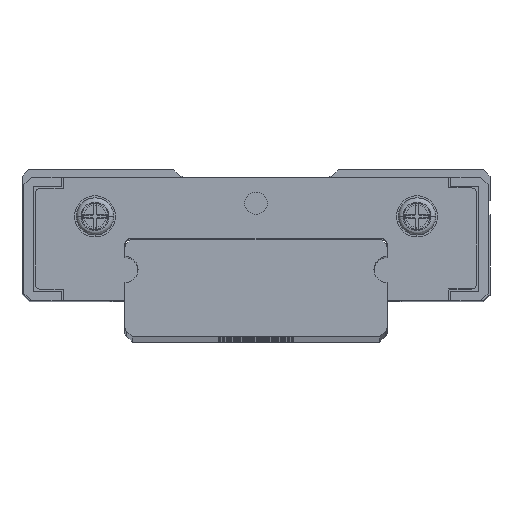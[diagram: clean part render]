
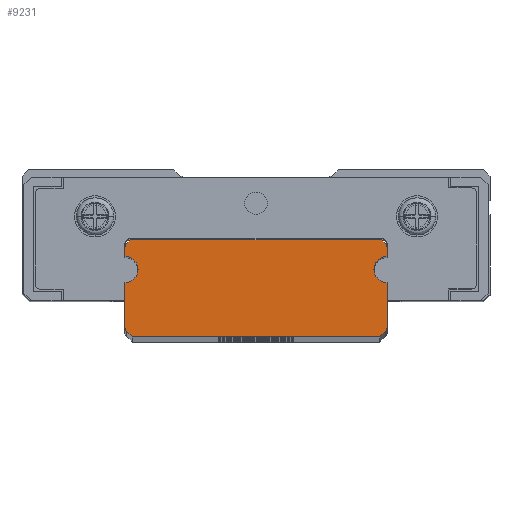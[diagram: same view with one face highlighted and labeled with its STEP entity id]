
A CAD part, top view. The second image highlights one B-rep face of the part: STEP entity #9231.
In plain terms, the highlighted planar face has unit normal (0, 0, 1).
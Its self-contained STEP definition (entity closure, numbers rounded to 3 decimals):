
#7615=CARTESIAN_POINT('',(7.,1.7,164.));
#7616=VERTEX_POINT('',#7615);
#7617=CARTESIAN_POINT('',(6.3,1.,164.));
#7618=VERTEX_POINT('',#7617);
#7619=CARTESIAN_POINT('',(7.,1.,164.));
#7620=DIRECTION('',(0.,1.,0.));
#7621=DIRECTION('',(0.,0.,1.));
#7622=AXIS2_PLACEMENT_3D('',#7619,#7621,#7620);
#7623=CIRCLE('',#7622,0.7);
#7624=EDGE_CURVE('',#7616,#7618,#7623,.T.);
#8651=CARTESIAN_POINT('',(6.7,2.6,164.));
#8652=VERTEX_POINT('',#8651);
#8659=CARTESIAN_POINT('',(6.912,2.388,164.));
#8660=VERTEX_POINT('',#8659);
#8661=CARTESIAN_POINT('',(6.7,2.6,164.));
#8662=DIRECTION('',(0.707,-0.707,0.));
#8663=VECTOR('',#8662,0.3);
#8664=LINE('',#8661,#8663);
#8665=EDGE_CURVE('',#8652,#8660,#8664,.T.);
#8689=CARTESIAN_POINT('',(-6.7,2.6,164.));
#8690=VERTEX_POINT('',#8689);
#8697=CARTESIAN_POINT('',(-6.7,2.6,164.));
#8698=DIRECTION('',(1.,0.,0.));
#8699=VECTOR('',#8698,13.4);
#8700=LINE('',#8697,#8699);
#8701=EDGE_CURVE('',#8690,#8652,#8700,.T.);
#8756=CARTESIAN_POINT('',(-6.912,2.388,164.));
#8757=VERTEX_POINT('',#8756);
#8764=CARTESIAN_POINT('',(-6.912,2.388,164.));
#8765=DIRECTION('',(0.707,0.707,0.));
#8766=VECTOR('',#8765,0.3);
#8767=LINE('',#8764,#8766);
#8768=EDGE_CURVE('',#8757,#8690,#8767,.T.);
#8788=CARTESIAN_POINT('',(-7.,2.176,164.));
#8789=VERTEX_POINT('',#8788);
#8796=CARTESIAN_POINT('',(-6.7,2.176,164.));
#8797=DIRECTION('',(-1.,0.,0.));
#8798=DIRECTION('',(0.,0.,-1.));
#8799=AXIS2_PLACEMENT_3D('',#8796,#8798,#8797);
#8800=CIRCLE('',#8799,0.3);
#8801=EDGE_CURVE('',#8789,#8757,#8800,.T.);
#8820=CARTESIAN_POINT('',(-7.,1.7,164.));
#8821=VERTEX_POINT('',#8820);
#8828=CARTESIAN_POINT('',(-7.,1.7,164.));
#8829=DIRECTION('',(0.,1.,0.));
#8830=VECTOR('',#8829,0.476);
#8831=LINE('',#8828,#8830);
#8832=EDGE_CURVE('',#8821,#8789,#8831,.T.);
#8852=CARTESIAN_POINT('',(-7.,0.3,164.));
#8853=VERTEX_POINT('',#8852);
#8860=CARTESIAN_POINT('',(-7.,1.,164.));
#8861=DIRECTION('',(0.,-1.,0.));
#8862=DIRECTION('',(0.,0.,1.));
#8863=AXIS2_PLACEMENT_3D('',#8860,#8862,#8861);
#8864=CIRCLE('',#8863,0.7);
#8865=EDGE_CURVE('',#8853,#8821,#8864,.T.);
#8884=CARTESIAN_POINT('',(-7.,-2.106,164.));
#8885=VERTEX_POINT('',#8884);
#8892=CARTESIAN_POINT('',(-7.,-2.106,164.));
#8893=DIRECTION('',(0.,1.,0.));
#8894=VECTOR('',#8893,2.406);
#8895=LINE('',#8892,#8894);
#8896=EDGE_CURVE('',#8885,#8853,#8895,.T.);
#8916=CARTESIAN_POINT('',(-6.912,-2.288,164.));
#8917=VERTEX_POINT('',#8916);
#8924=CARTESIAN_POINT('',(-6.702,-2.074,164.));
#8925=DIRECTION('',(-0.701,-0.713,0.));
#8926=DIRECTION('',(0.,0.,-1.));
#8927=AXIS2_PLACEMENT_3D('',#8924,#8926,#8925);
#8928=CIRCLE('',#8927,0.3);
#8929=EDGE_CURVE('',#8917,#8885,#8928,.T.);
#8948=CARTESIAN_POINT('',(-6.6,-2.6,164.));
#8949=VERTEX_POINT('',#8948);
#8956=CARTESIAN_POINT('',(-6.6,-2.6,164.));
#8957=DIRECTION('',(-0.707,0.707,0.));
#8958=VECTOR('',#8957,0.441);
#8959=LINE('',#8956,#8958);
#8960=EDGE_CURVE('',#8949,#8917,#8959,.T.);
#8979=CARTESIAN_POINT('',(6.6,-2.6,164.));
#8980=VERTEX_POINT('',#8979);
#8987=CARTESIAN_POINT('',(6.6,-2.6,164.));
#8988=DIRECTION('',(-1.,0.,0.));
#8989=VECTOR('',#8988,13.2);
#8990=LINE('',#8987,#8989);
#8991=EDGE_CURVE('',#8980,#8949,#8990,.T.);
#9046=CARTESIAN_POINT('',(6.912,-2.288,164.));
#9047=VERTEX_POINT('',#9046);
#9054=CARTESIAN_POINT('',(6.912,-2.288,164.));
#9055=DIRECTION('',(-0.707,-0.707,0.));
#9056=VECTOR('',#9055,0.441);
#9057=LINE('',#9054,#9056);
#9058=EDGE_CURVE('',#9047,#8980,#9057,.T.);
#9078=CARTESIAN_POINT('',(7.,-2.106,164.));
#9079=VERTEX_POINT('',#9078);
#9086=CARTESIAN_POINT('',(6.702,-2.074,164.));
#9087=DIRECTION('',(0.994,-0.107,0.));
#9088=DIRECTION('',(0.,0.,-1.));
#9089=AXIS2_PLACEMENT_3D('',#9086,#9088,#9087);
#9090=CIRCLE('',#9089,0.3);
#9091=EDGE_CURVE('',#9079,#9047,#9090,.T.);
#9110=CARTESIAN_POINT('',(7.,0.3,164.));
#9111=VERTEX_POINT('',#9110);
#9118=CARTESIAN_POINT('',(7.,0.3,164.));
#9119=DIRECTION('',(0.,-1.,0.));
#9120=VECTOR('',#9119,2.406);
#9121=LINE('',#9118,#9120);
#9122=EDGE_CURVE('',#9111,#9079,#9121,.T.);
#9134=CARTESIAN_POINT('',(7.,1.,164.));
#9135=DIRECTION('',(-1.,0.,0.));
#9136=DIRECTION('',(0.,0.,1.));
#9137=AXIS2_PLACEMENT_3D('',#9134,#9136,#9135);
#9138=CIRCLE('',#9137,0.7);
#9139=EDGE_CURVE('',#7618,#9111,#9138,.T.);
#9165=CARTESIAN_POINT('',(7.,2.176,164.));
#9166=VERTEX_POINT('',#9165);
#9173=CARTESIAN_POINT('',(7.,2.176,164.));
#9174=DIRECTION('',(0.,-1.,0.));
#9175=VECTOR('',#9174,0.476);
#9176=LINE('',#9173,#9175);
#9177=EDGE_CURVE('',#9166,#7616,#9176,.T.);
#9196=CARTESIAN_POINT('',(6.7,2.176,164.));
#9197=DIRECTION('',(0.707,0.707,0.));
#9198=DIRECTION('',(0.,0.,-1.));
#9199=AXIS2_PLACEMENT_3D('',#9196,#9198,#9197);
#9200=CIRCLE('',#9199,0.3);
#9201=EDGE_CURVE('',#8660,#9166,#9200,.T.);
#9207=CARTESIAN_POINT('',(6.7,2.176,164.));
#9208=DIRECTION('',(-1.,0.,0.));
#9209=DIRECTION('',(0.,0.,1.));
#9210=AXIS2_PLACEMENT_3D('',#9207,#9209,#9208);
#9211=PLANE('',#9210);
#9212=ORIENTED_EDGE('',*,*,#8665,.F.);
#9213=ORIENTED_EDGE('',*,*,#8701,.F.);
#9214=ORIENTED_EDGE('',*,*,#8768,.F.);
#9215=ORIENTED_EDGE('',*,*,#8801,.F.);
#9216=ORIENTED_EDGE('',*,*,#8832,.F.);
#9217=ORIENTED_EDGE('',*,*,#8865,.F.);
#9218=ORIENTED_EDGE('',*,*,#8896,.F.);
#9219=ORIENTED_EDGE('',*,*,#8929,.F.);
#9220=ORIENTED_EDGE('',*,*,#8960,.F.);
#9221=ORIENTED_EDGE('',*,*,#8991,.F.);
#9222=ORIENTED_EDGE('',*,*,#9058,.F.);
#9223=ORIENTED_EDGE('',*,*,#9091,.F.);
#9224=ORIENTED_EDGE('',*,*,#9122,.F.);
#9225=ORIENTED_EDGE('',*,*,#9139,.F.);
#9226=ORIENTED_EDGE('',*,*,#7624,.F.);
#9227=ORIENTED_EDGE('',*,*,#9177,.F.);
#9228=ORIENTED_EDGE('',*,*,#9201,.F.);
#9229=EDGE_LOOP('',(#9212,#9213,#9214,#9215,#9216,#9217,#9218,#9219,#9220,#9221,#9222,#9223,#9224,#9225,#9226,#9227,#9228));
#9230=FACE_OUTER_BOUND('',#9229,.T.);
#9231=ADVANCED_FACE('',(#9230),#9211,.T.);
